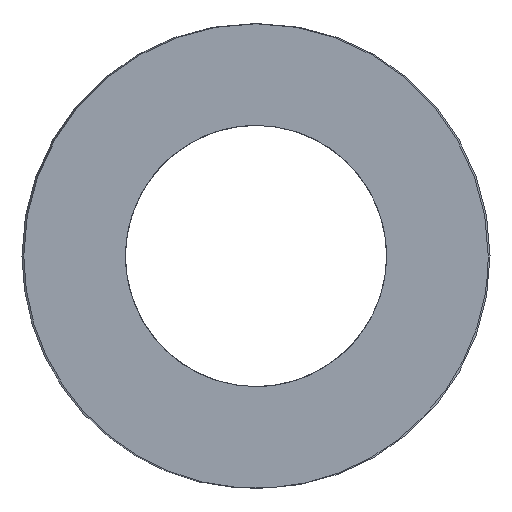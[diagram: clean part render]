
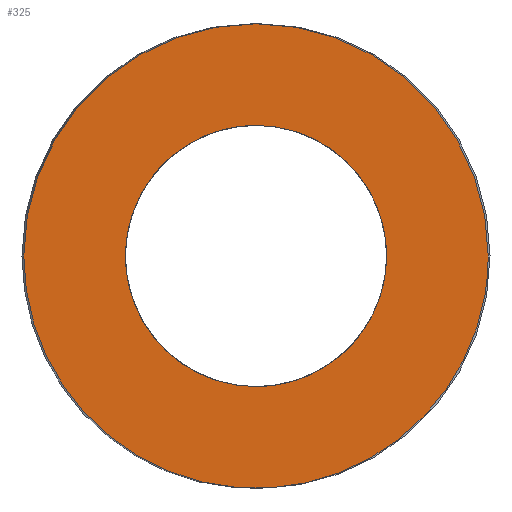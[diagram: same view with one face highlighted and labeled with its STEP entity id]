
A CAD part, left-side view. The second image highlights one B-rep face of the part: STEP entity #325.
In plain terms, the highlighted planar face has unit normal (-1, 0, 0).
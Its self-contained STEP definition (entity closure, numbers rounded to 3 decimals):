
#63=CARTESIAN_POINT('Vertex',(0.,18.75,0.)) ;
#89=CARTESIAN_POINT('Vertex',(0.,-18.75,0.)) ;
#93=CARTESIAN_POINT('Control Point',(0.,18.75,0.)) ;
#94=CARTESIAN_POINT('Control Point',(0.,18.75,-2.945)) ;
#95=CARTESIAN_POINT('Control Point',(0.,18.172,-5.89)) ;
#96=CARTESIAN_POINT('Control Point',(0.,17.015,-8.684)) ;
#97=CARTESIAN_POINT('Control Point',(0.,13.667,-13.667)) ;
#98=CARTESIAN_POINT('Control Point',(0.,8.684,-17.015)) ;
#99=CARTESIAN_POINT('Control Point',(0.,5.89,-18.172)) ;
#100=CARTESIAN_POINT('Control Point',(0.,0.,-19.328)) ;
#101=CARTESIAN_POINT('Control Point',(0.,-5.89,-18.172)) ;
#102=CARTESIAN_POINT('Control Point',(0.,-8.684,-17.015)) ;
#103=CARTESIAN_POINT('Control Point',(0.,-13.667,-13.667)) ;
#104=CARTESIAN_POINT('Control Point',(0.,-17.015,-8.684)) ;
#105=CARTESIAN_POINT('Control Point',(0.,-18.172,-5.89)) ;
#106=CARTESIAN_POINT('Control Point',(0.,-18.75,-2.945)) ;
#107=CARTESIAN_POINT('Control Point',(0.,-18.75,0.)) ;
#121=CARTESIAN_POINT('Axis2P3D Location',(0.,0.,0.)) ;
#256=CARTESIAN_POINT('Axis2P3D Location',(0.,9.375,0.)) ;
#266=CARTESIAN_POINT('Control Point',(0.,0.,-10.55)) ;
#267=CARTESIAN_POINT('Control Point',(0.,0.955,-10.55)) ;
#268=CARTESIAN_POINT('Control Point',(0.,1.909,-10.442)) ;
#269=CARTESIAN_POINT('Control Point',(0.,2.848,-10.226)) ;
#270=CARTESIAN_POINT('Control Point',(0.,4.66,-9.585)) ;
#271=CARTESIAN_POINT('Control Point',(0.,6.283,-8.556)) ;
#272=CARTESIAN_POINT('Control Point',(0.,7.032,-7.952)) ;
#273=CARTESIAN_POINT('Control Point',(0.,8.381,-6.584)) ;
#274=CARTESIAN_POINT('Control Point',(0.,9.391,-4.949)) ;
#275=CARTESIAN_POINT('Control Point',(0.,9.801,-4.077)) ;
#276=CARTESIAN_POINT('Control Point',(0.,10.416,-2.257)) ;
#277=CARTESIAN_POINT('Control Point',(0.,10.61,-0.345)) ;
#278=CARTESIAN_POINT('Control Point',(0.,10.597,0.618)) ;
#279=CARTESIAN_POINT('Control Point',(0.,10.355,2.524)) ;
#280=CARTESIAN_POINT('Control Point',(0.,9.693,4.328)) ;
#281=CARTESIAN_POINT('Control Point',(0.,9.26,5.189)) ;
#282=CARTESIAN_POINT('Control Point',(0.,8.209,6.797)) ;
#283=CARTESIAN_POINT('Control Point',(0.,6.825,8.13)) ;
#284=CARTESIAN_POINT('Control Point',(0.,6.06,8.715)) ;
#285=CARTESIAN_POINT('Control Point',(0.,4.458,9.674)) ;
#286=CARTESIAN_POINT('Control Point',(0.,2.687,10.262)) ;
#287=CARTESIAN_POINT('Control Point',(0.,1.801,10.454)) ;
#288=CARTESIAN_POINT('Control Point',(0.,0.9,10.55)) ;
#289=CARTESIAN_POINT('Control Point',(0.,0.,10.55)) ;
#290=CARTESIAN_POINT('Vertex',(0.,0.,-10.55)) ;
#292=CARTESIAN_POINT('Vertex',(0.,0.,10.55)) ;
#296=CARTESIAN_POINT('Control Point',(0.,0.,10.55)) ;
#297=CARTESIAN_POINT('Control Point',(0.,-0.955,10.55)) ;
#298=CARTESIAN_POINT('Control Point',(0.,-1.909,10.442)) ;
#299=CARTESIAN_POINT('Control Point',(0.,-2.848,10.226)) ;
#300=CARTESIAN_POINT('Control Point',(0.,-4.66,9.585)) ;
#301=CARTESIAN_POINT('Control Point',(0.,-6.283,8.556)) ;
#302=CARTESIAN_POINT('Control Point',(0.,-7.032,7.952)) ;
#303=CARTESIAN_POINT('Control Point',(0.,-8.381,6.584)) ;
#304=CARTESIAN_POINT('Control Point',(0.,-9.391,4.949)) ;
#305=CARTESIAN_POINT('Control Point',(0.,-9.801,4.077)) ;
#306=CARTESIAN_POINT('Control Point',(0.,-10.416,2.257)) ;
#307=CARTESIAN_POINT('Control Point',(0.,-10.61,0.345)) ;
#308=CARTESIAN_POINT('Control Point',(0.,-10.597,-0.618)) ;
#309=CARTESIAN_POINT('Control Point',(0.,-10.355,-2.524)) ;
#310=CARTESIAN_POINT('Control Point',(0.,-9.693,-4.328)) ;
#311=CARTESIAN_POINT('Control Point',(0.,-9.26,-5.189)) ;
#312=CARTESIAN_POINT('Control Point',(0.,-8.209,-6.797)) ;
#313=CARTESIAN_POINT('Control Point',(0.,-6.825,-8.13)) ;
#314=CARTESIAN_POINT('Control Point',(0.,-6.06,-8.715)) ;
#315=CARTESIAN_POINT('Control Point',(0.,-4.458,-9.674)) ;
#316=CARTESIAN_POINT('Control Point',(0.,-2.687,-10.262)) ;
#317=CARTESIAN_POINT('Control Point',(0.,-1.801,-10.454)) ;
#318=CARTESIAN_POINT('Control Point',(0.,-0.9,-10.55)) ;
#319=CARTESIAN_POINT('Control Point',(0.,0.,-10.55)) ;
#122=DIRECTION('Axis2P3D Direction',(1.,-0.,0.)) ;
#257=DIRECTION('Axis2P3D Direction',(-1.,0.,0.)) ;
#258=DIRECTION('Axis2P3D XDirection',(0.,1.,0.)) ;
#123=AXIS2_PLACEMENT_3D('Circle Axis2P3D',#121,#122,$) ;
#259=AXIS2_PLACEMENT_3D('Plane Axis2P3D',#256,#257,#258) ;
#262=ORIENTED_EDGE('',*,*,#108,.T.) ;
#263=ORIENTED_EDGE('',*,*,#125,.T.) ;
#322=ORIENTED_EDGE('',*,*,#294,.T.) ;
#323=ORIENTED_EDGE('',*,*,#320,.T.) ;
#324=FACE_BOUND('',#321,.T.) ;
#325=ADVANCED_FACE('392-B40-089',(#264,#324),#260,.T.) ;
#92=B_SPLINE_CURVE_WITH_KNOTS('',5,(#93,#94,#95,#96,#97,#98,#99,#100,#101,#102,#103,#104,#105,#106,#107),.UNSPECIFIED.,.F.,.U.,(6,3,3,3,6),(-29.452,-14.726,0.,14.726,29.452),.UNSPECIFIED.) ;
#265=B_SPLINE_CURVE_WITH_KNOTS('',5,(#266,#267,#268,#269,#270,#271,#272,#273,#274,#275,#276,#277,#278,#279,#280,#281,#282,#283,#284,#285,#286,#287,#288,#289),.UNSPECIFIED.,.F.,.U.,(6,3,3,3,3,3,3,6),(0.,6.751,13.502,20.253,27.004,33.755,40.506,46.872),.UNSPECIFIED.) ;
#295=B_SPLINE_CURVE_WITH_KNOTS('',5,(#296,#297,#298,#299,#300,#301,#302,#303,#304,#305,#306,#307,#308,#309,#310,#311,#312,#313,#314,#315,#316,#317,#318,#319),.UNSPECIFIED.,.F.,.U.,(6,3,3,3,3,3,3,6),(0.,6.751,13.502,20.253,27.004,33.755,40.506,46.872),.UNSPECIFIED.) ;
#124=CIRCLE('generated circle',#123,18.75) ;
#108=EDGE_CURVE('',#64,#90,#92,.T.) ;
#125=EDGE_CURVE('',#90,#64,#124,.F.) ;
#294=EDGE_CURVE('',#291,#293,#265,.T.) ;
#320=EDGE_CURVE('',#293,#291,#295,.T.) ;
#261=EDGE_LOOP('',(#262,#263)) ;
#321=EDGE_LOOP('',(#322,#323)) ;
#264=FACE_OUTER_BOUND('',#261,.T.) ;
#260=PLANE('Plane',#259) ;
#64=VERTEX_POINT('',#63) ;
#90=VERTEX_POINT('',#89) ;
#291=VERTEX_POINT('',#290) ;
#293=VERTEX_POINT('',#292) ;
